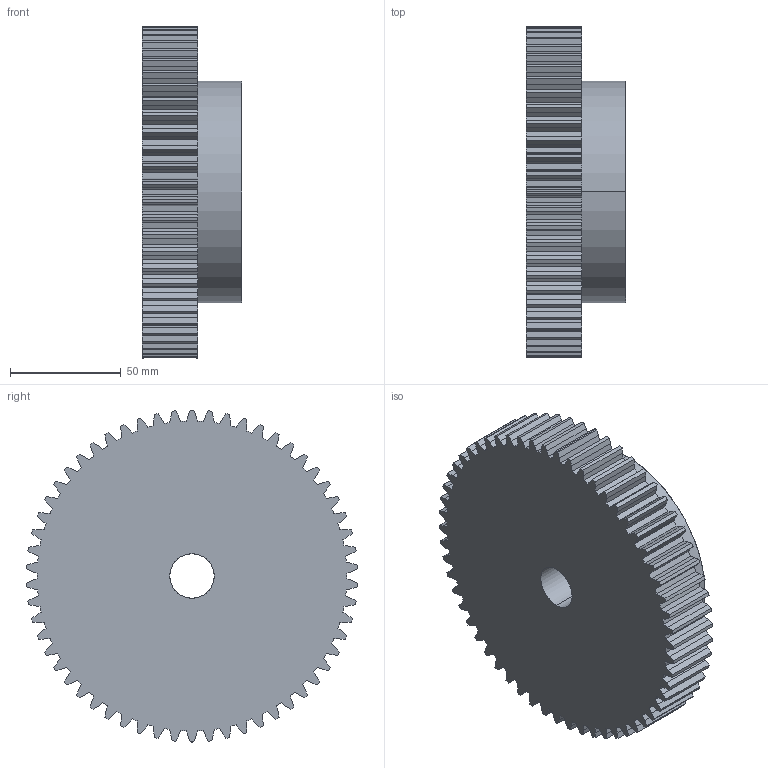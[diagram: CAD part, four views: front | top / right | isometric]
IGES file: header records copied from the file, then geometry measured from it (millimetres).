
Start section: SolidWorks IGES file using analytic representation for surfaces
Global section: file name: C:\Users\Honza\Desktop\Matis (Hotove)\Èelní ozubená kola\PM\MODUL 2,5\PM 29058.IGS; native system: SolidWorks 2010; preprocessor: SolidWorks 2010; author: Honza; date: 130925.152150; units: millimetre
Bounding box: 45 x 149.86 x 150 mm (x, y, z)
Surface area: 62775.9 mm2 (no closed solid volume)
Topology: 0 solids, 0 shells, 356 faces, 2350 edges, 2350 vertices
Faces by surface type: bspline 235, revolution 121
